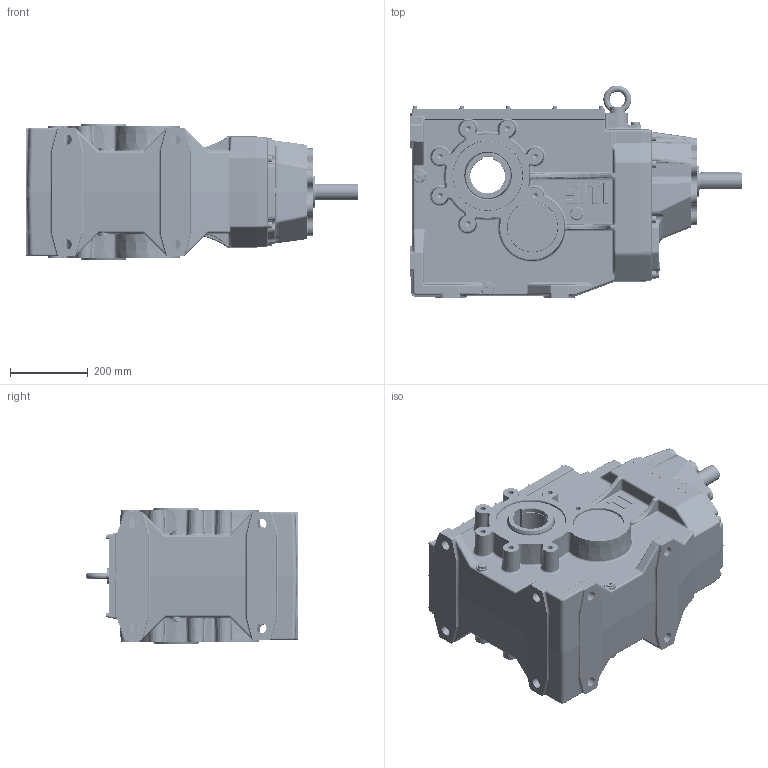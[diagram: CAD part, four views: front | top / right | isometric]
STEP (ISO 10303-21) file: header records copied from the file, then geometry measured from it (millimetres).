
FILE_DESCRIPTION((''),'2;1');
FILE_NAME('O:\Figurini\Figurini BH\3D\160\BH 160 C.stp','2013-05-16T09:12:28',('d.iannaccio'),(''),'Autodesk Inventor 2012','Autodesk Inventor 2012','');
FILE_SCHEMA(('AUTOMOTIVE_DESIGN { 1 0 10303 214 1 1 1 1 }'));
Length unit declared in the file: millimetre
Products named in the file (1): BH_160 C
Bounding box: 855 x 547.88 x 350 mm (x, y, z)
Volume: 23755222.1 mm3; surface area: 3311528.9 mm2
Topology: 49 solids, 51 shells, 3561 faces, 8598 edges, 5089 vertices
Faces by surface type: cylinder 1012, plane 957, bspline 786, torus 403, cone 330, sphere 73
Full cylindrical faces by diameter (mm): 1.5 x1, 3 x2, 4.917 x12, 6 x24, 6.4 x12, 7 x12, 8.4 x1, 10 x12, 10.106 x10, 10.5 x1, 11 x2, 12 x22, 12.5 x14, 13 x8, 13.835 x14, 14.95 x8, 17.294 x3, 18 x8, 20.5 x8, 24 x1, 25 x1, 26 x9, 30 x5, 40 x1, 42 x1, 72 x1, 74.975 x2, 75.35 x1, 76.5 x1, 79.698 x1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
Entity records: 138017 total; most frequent: CARTESIAN_POINT 58295, ORIENTED_EDGE 15590, DIRECTION 15390, EDGE_CURVE 7795, AXIS2_PLACEMENT_3D 6457, VERTEX_POINT 4882, EDGE_LOOP 4221, FACE_OUTER_BOUND 3561
